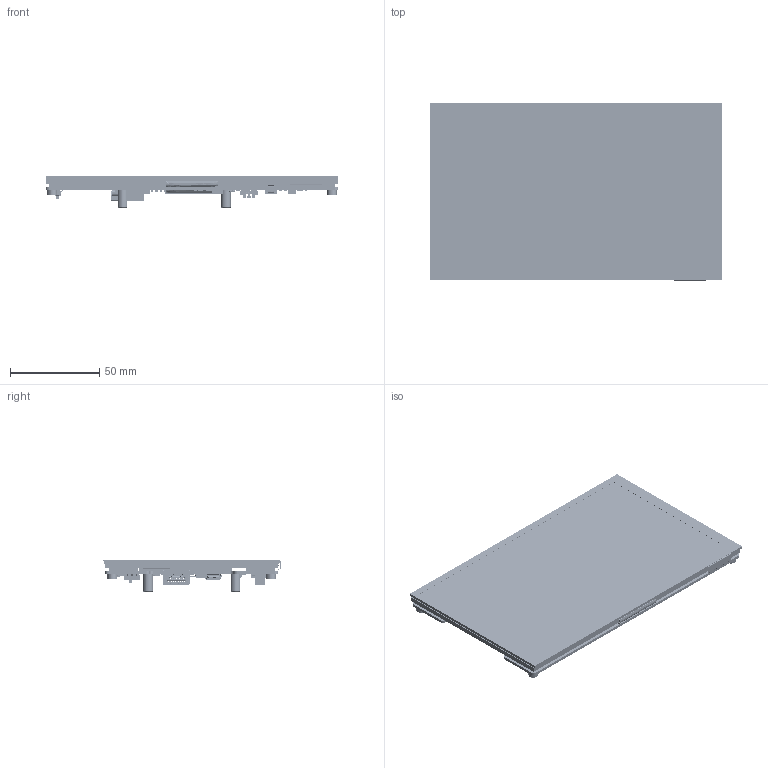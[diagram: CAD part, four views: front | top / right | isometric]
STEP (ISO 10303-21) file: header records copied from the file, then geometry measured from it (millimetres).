
FILE_DESCRIPTION((''),'2;1');
FILE_NAME('7INCH-HD-TOUCHSCREEN_ASM','2024-02-21T17:37:35',('xiaojisheng'),(''),'CREO PARAMETRIC BY PTC INC, 2021063','CREO PARAMETRIC BY PTC INC, 2021063','');
FILE_SCHEMA(('CONFIG_CONTROL_DESIGN','SHAPE_APPEARANCE_LAYERS_GROUPS'));
Products named in the file (383): 7INCH-IPS-LCD-20220607; STC-070148-7INCH-TP; 7INCH-EVA-2MM; BOARD; _2_1_2_3_4_AF0; _7_1_2_AF0; 5_1_2_3_400; R_0603-3601_AF0_ASM_ASM; R_0603-3615_AF0_ASM_ASM; R0603_ASM; R91_ASM; _2_1_2_3_4_5_6_AF0; _7_1_2_3_4_AF0; 5_1_2_3_4_5_600; R_0805-6998_AF0_ASM_ASM; R_0805-7019_AF0_ASM_ASM; R0805_ASM; R8_ASM; FB4_ASM; FB3_ASM; FB2_ASM; FB1_ASM; _2_1_20001; 5_1_2_A; _7_AF0; R_0402-3099_AF0_ASM_ASM; R_0402-5222_AF0_ASM_ASM; R0402_ASM; R78_ASM; R77_ASM; R76_ASM; R75_ASM; R74_ASM; R73_ASM; R72_ASM; R71_ASM; 2_1_200; _1_1_20001; 3_1_2_A; C_0603-683_AF0_ASM_ASM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
Assembly tree (730 placements, depth 9):
  7INCH-HD-TOUCHSCREEN_ASM
    7INCH-IPS-LCD-20220607
    STC-070148-7INCH-TP
    7INCH-EVA-2MM
    7INCH-HDMI-PCBA_ASM
      7_HD_TOUCHSCREEN-PCBA_ASM
        PCB_ASM
          BOARD
          R91_ASM
            R0603_ASM
              R_0603-3615_AF0_ASM_ASM
                R_0603-3601_AF0_ASM_ASM
                  _2_1_2_3_4_AF0
                  _7_1_2_AF0
                  5_1_2_3_400
          R8_ASM
            R0805_ASM
              R_0805-7019_AF0_ASM_ASM
                R_0805-6998_AF0_ASM_ASM
                  _2_1_2_3_4_5_6_AF0
                  _7_1_2_3_4_AF0
                  5_1_2_3_4_5_600
          FB4_ASM
            R0805_ASM
              R_0805-7019_AF0_ASM_ASM
                R_0805-6998_AF0_ASM_ASM
                  _2_1_2_3_4_5_6_AF0
                  _7_1_2_3_4_AF0
                  5_1_2_3_4_5_600
          FB3_ASM
            R0805_ASM
              R_0805-7019_AF0_ASM_ASM
                R_0805-6998_AF0_ASM_ASM
                  _2_1_2_3_4_5_6_AF0
                  _7_1_2_3_4_AF0
                  5_1_2_3_4_5_600
          FB2_ASM
            R0805_ASM
              R_0805-7019_AF0_ASM_ASM
                R_0805-6998_AF0_ASM_ASM
                  _2_1_2_3_4_5_6_AF0
                  _7_1_2_3_4_AF0
                  5_1_2_3_4_5_600
          FB1_ASM
            R0805_ASM
              R_0805-7019_AF0_ASM_ASM
                R_0805-6998_AF0_ASM_ASM
                  _2_1_2_3_4_5_6_AF0
                  _7_1_2_3_4_AF0
                  5_1_2_3_4_5_600
          R78_ASM
            R0402_ASM
              R_0402-5222_AF0_ASM_ASM
                R_0402-3099_AF0_ASM_ASM
                  _2_1_20001
                  5_1_2_A
                  _7_AF0
          R77_ASM
            R0402_ASM
              R_0402-5222_AF0_ASM_ASM
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Bounding box: 164.28 x 99.47 x 17.7 mm (x, y, z)
Volume: 95473.4 mm3; surface area: 120776.7 mm2
Topology: 656 solids, 670 shells, 54692 faces, 144853 edges, 95507 vertices
Faces by surface type: plane 40045, extrusion 10479, cylinder 3447, sphere 475, cone 108, bspline 74, torus 64
Entity records: 381351 total; most frequent: CARTESIAN_POINT 85310, ORIENTED_EDGE 48848, DIRECTION 44775, EDGE_CURVE 24424, VECTOR 20385, LINE 19388, PRESENTATION_STYLE_ASSIGNMENT 16736, VERTEX_POINT 16062
